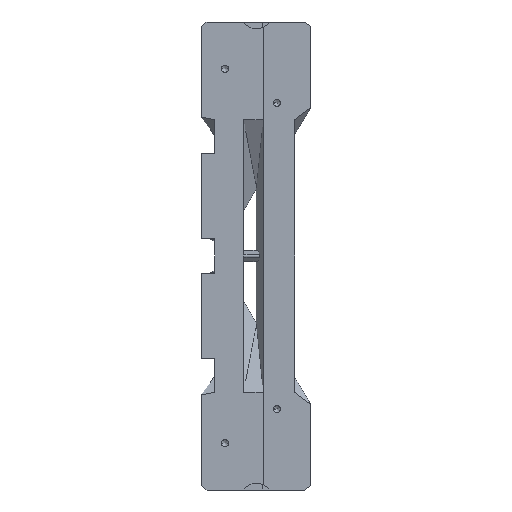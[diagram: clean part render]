
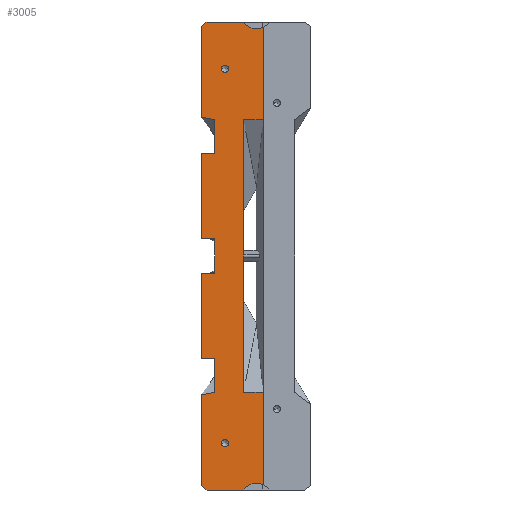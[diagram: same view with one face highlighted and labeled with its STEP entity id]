
A CAD part, left-side view. The second image highlights one B-rep face of the part: STEP entity #3005.
In plain terms, the highlighted planar face has unit normal (-1, 0, 0).
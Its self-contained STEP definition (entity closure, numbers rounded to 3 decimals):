
#1629=DIRECTION('',(0.,-1.,0.));
#1630=VECTOR('',#1629,42.524);
#1631=CARTESIAN_POINT('',(0.,58.016,-275.));
#1632=LINE('',#1631,#1630);
#1657=CARTESIAN_POINT('',(0.,37.,-220.));
#1658=DIRECTION('',(-1.,0.,0.));
#1659=DIRECTION('',(0.,1.,0.));
#1660=AXIS2_PLACEMENT_3D('',#1657,#1658,#1659);
#1662=CARTESIAN_POINT('',(0.,37.,-220.));
#1663=DIRECTION('',(-1.,0.,0.));
#1664=DIRECTION('',(0.,-1.,0.));
#1665=AXIS2_PLACEMENT_3D('',#1662,#1663,#1664);
#1667=CARTESIAN_POINT('',(0.,37.,220.));
#1668=DIRECTION('',(-1.,0.,0.));
#1669=DIRECTION('',(0.,1.,0.));
#1670=AXIS2_PLACEMENT_3D('',#1667,#1668,#1669);
#1672=CARTESIAN_POINT('',(0.,37.,220.));
#1673=DIRECTION('',(-1.,0.,0.));
#1674=DIRECTION('',(0.,-1.,0.));
#1675=AXIS2_PLACEMENT_3D('',#1672,#1673,#1674);
#1677=DIRECTION('',(0.,0.,1.));
#1678=VECTOR('',#1677,100.);
#1679=CARTESIAN_POINT('',(0.,65.,20.));
#1680=LINE('',#1679,#1678);
#1681=DIRECTION('',(0.,1.,0.));
#1682=VECTOR('',#1681,16.);
#1683=CARTESIAN_POINT('',(0.,49.,120.));
#1684=LINE('',#1683,#1682);
#1685=DIRECTION('',(0.,0.,1.));
#1686=VECTOR('',#1685,40.);
#1687=CARTESIAN_POINT('',(0.,49.,120.));
#1688=LINE('',#1687,#1686);
#1689=DIRECTION('',(0.,-0.978,-0.208));
#1690=VECTOR('',#1689,16.357);
#1691=CARTESIAN_POINT('',(0.,65.,163.401));
#1692=LINE('',#1691,#1690);
#1693=DIRECTION('',(0.,0.,1.));
#1694=VECTOR('',#1693,106.599);
#1695=CARTESIAN_POINT('',(0.,65.,163.401));
#1696=LINE('',#1695,#1694);
#1697=DIRECTION('',(0.,0.813,-0.582));
#1698=VECTOR('',#1697,8.589);
#1699=CARTESIAN_POINT('',(0.,58.016,275.));
#1700=LINE('',#1699,#1698);
#1701=CARTESIAN_POINT('',(0.,0.,286.));
#1702=DIRECTION('',(-1.,0.,0.));
#1703=DIRECTION('',(0.,0.815,-0.579));
#1704=AXIS2_PLACEMENT_3D('',#1701,#1702,#1703);
#1706=DIRECTION('',(0.,-1.,0.));
#1707=VECTOR('',#1706,23.);
#1708=CARTESIAN_POINT('',(0.,15.,160.));
#1709=LINE('',#1708,#1707);
#1710=DIRECTION('',(0.,0.,1.));
#1711=VECTOR('',#1710,320.);
#1712=CARTESIAN_POINT('',(0.,15.,-160.));
#1713=LINE('',#1712,#1711);
#1714=DIRECTION('',(0.,1.,0.));
#1715=VECTOR('',#1714,23.);
#1716=CARTESIAN_POINT('',(0.,-8.,-160.));
#1717=LINE('',#1716,#1715);
#1718=CARTESIAN_POINT('',(0.,0.,-286.));
#1719=DIRECTION('',(-1.,0.,0.));
#1720=DIRECTION('',(0.,-0.421,0.907));
#1721=AXIS2_PLACEMENT_3D('',#1718,#1719,#1720);
#1723=DIRECTION('',(0.,-0.813,-0.582));
#1724=VECTOR('',#1723,8.589);
#1725=CARTESIAN_POINT('',(0.,65.,-270.));
#1726=LINE('',#1725,#1724);
#1727=DIRECTION('',(0.,0.,1.));
#1728=VECTOR('',#1727,106.599);
#1729=CARTESIAN_POINT('',(0.,65.,-270.));
#1730=LINE('',#1729,#1728);
#1731=DIRECTION('',(0.,0.978,-0.208));
#1732=VECTOR('',#1731,16.357);
#1733=CARTESIAN_POINT('',(0.,49.,-160.));
#1734=LINE('',#1733,#1732);
#1735=DIRECTION('',(0.,0.,1.));
#1736=VECTOR('',#1735,40.);
#1737=CARTESIAN_POINT('',(0.,49.,-160.));
#1738=LINE('',#1737,#1736);
#1739=DIRECTION('',(0.,-1.,0.));
#1740=VECTOR('',#1739,16.);
#1741=CARTESIAN_POINT('',(0.,65.,-120.));
#1742=LINE('',#1741,#1740);
#1743=DIRECTION('',(0.,0.,1.));
#1744=VECTOR('',#1743,100.);
#1745=CARTESIAN_POINT('',(0.,65.,-120.));
#1746=LINE('',#1745,#1744);
#1813=DIRECTION('',(0.,0.,-1.));
#1814=VECTOR('',#1813,40.);
#1815=CARTESIAN_POINT('',(0.,49.,20.));
#1816=LINE('',#1815,#1814);
#1853=DIRECTION('',(0.,-1.,0.));
#1854=VECTOR('',#1853,16.);
#1855=CARTESIAN_POINT('',(0.,65.,20.));
#1856=LINE('',#1855,#1854);
#2346=DIRECTION('',(0.,0.,1.));
#2347=VECTOR('',#2346,108.766);
#2348=CARTESIAN_POINT('',(0.,-8.,-268.766));
#2349=LINE('',#2348,#2347);
#2354=DIRECTION('',(0.,0.,1.));
#2355=VECTOR('',#2354,108.766);
#2356=CARTESIAN_POINT('',(0.,-8.,160.));
#2357=LINE('',#2356,#2355);
#2419=DIRECTION('',(0.,-1.,0.));
#2420=VECTOR('',#2419,42.524);
#2421=CARTESIAN_POINT('',(0.,58.016,275.));
#2422=LINE('',#2421,#2420);
#2587=DIRECTION('',(0.,1.,0.));
#2588=VECTOR('',#2587,16.);
#2589=CARTESIAN_POINT('',(0.,49.,-20.));
#2590=LINE('',#2589,#2588);
#2617=CARTESIAN_POINT('',(0.,58.016,275.));
#2618=CARTESIAN_POINT('',(0.,65.,270.));
#2619=VERTEX_POINT('',#2617);
#2620=VERTEX_POINT('',#2618);
#2629=CARTESIAN_POINT('',(0.,65.,-270.));
#2630=VERTEX_POINT('',#2629);
#2631=CARTESIAN_POINT('',(0.,58.016,-275.));
#2632=VERTEX_POINT('',#2631);
#2641=CARTESIAN_POINT('',(0.,15.492,-275.));
#2642=VERTEX_POINT('',#2641);
#2647=CARTESIAN_POINT('',(0.,15.492,275.));
#2648=VERTEX_POINT('',#2647);
#2649=CARTESIAN_POINT('',(0.,-8.,-268.766));
#2650=VERTEX_POINT('',#2649);
#2651=CARTESIAN_POINT('',(0.,-8.,268.766));
#2652=VERTEX_POINT('',#2651);
#2663=CARTESIAN_POINT('',(0.,41.25,-220.));
#2664=CARTESIAN_POINT('',(0.,32.75,-220.));
#2665=VERTEX_POINT('',#2663);
#2666=VERTEX_POINT('',#2664);
#2673=CARTESIAN_POINT('',(0.,41.25,220.));
#2674=CARTESIAN_POINT('',(0.,32.75,220.));
#2675=VERTEX_POINT('',#2673);
#2676=VERTEX_POINT('',#2674);
#2697=CARTESIAN_POINT('',(0.,65.,163.401));
#2698=VERTEX_POINT('',#2697);
#2699=CARTESIAN_POINT('',(0.,65.,120.));
#2700=VERTEX_POINT('',#2699);
#2701=CARTESIAN_POINT('',(0.,49.,160.));
#2702=VERTEX_POINT('',#2701);
#2703=CARTESIAN_POINT('',(0.,49.,120.));
#2704=VERTEX_POINT('',#2703);
#2715=CARTESIAN_POINT('',(0.,65.,-120.));
#2716=VERTEX_POINT('',#2715);
#2717=CARTESIAN_POINT('',(0.,65.,-163.401));
#2718=VERTEX_POINT('',#2717);
#2719=CARTESIAN_POINT('',(0.,49.,-120.));
#2720=VERTEX_POINT('',#2719);
#2721=CARTESIAN_POINT('',(0.,49.,-160.));
#2722=VERTEX_POINT('',#2721);
#2731=CARTESIAN_POINT('',(0.,15.,-160.));
#2732=CARTESIAN_POINT('',(0.,15.,160.));
#2733=VERTEX_POINT('',#2731);
#2734=VERTEX_POINT('',#2732);
#2735=CARTESIAN_POINT('',(0.,-8.,-160.));
#2736=VERTEX_POINT('',#2735);
#2737=CARTESIAN_POINT('',(0.,-8.,160.));
#2738=VERTEX_POINT('',#2737);
#2815=CARTESIAN_POINT('',(0.,65.,-20.));
#2816=VERTEX_POINT('',#2815);
#2817=CARTESIAN_POINT('',(0.,65.,20.));
#2818=VERTEX_POINT('',#2817);
#2819=CARTESIAN_POINT('',(0.,49.,20.));
#2820=CARTESIAN_POINT('',(0.,49.,-20.));
#2821=VERTEX_POINT('',#2819);
#2822=VERTEX_POINT('',#2820);
#2940=CARTESIAN_POINT('',(0.,65.,-275.));
#2941=DIRECTION('',(-1.,0.,0.));
#2942=DIRECTION('',(0.,-1.,0.));
#2943=AXIS2_PLACEMENT_3D('',#2940,#2941,#2942);
#2944=PLANE('',#2943);
#2946=ORIENTED_EDGE('',*,*,#2945,.F.);
#2948=ORIENTED_EDGE('',*,*,#2947,.F.);
#2950=ORIENTED_EDGE('',*,*,#2949,.T.);
#2952=ORIENTED_EDGE('',*,*,#2951,.F.);
#2954=ORIENTED_EDGE('',*,*,#2953,.T.);
#2956=ORIENTED_EDGE('',*,*,#2955,.F.);
#2958=ORIENTED_EDGE('',*,*,#2957,.T.);
#2960=ORIENTED_EDGE('',*,*,#2959,.F.);
#2962=ORIENTED_EDGE('',*,*,#2961,.T.);
#2964=ORIENTED_EDGE('',*,*,#2963,.T.);
#2966=ORIENTED_EDGE('',*,*,#2965,.F.);
#2968=ORIENTED_EDGE('',*,*,#2967,.F.);
#2970=ORIENTED_EDGE('',*,*,#2969,.F.);
#2972=ORIENTED_EDGE('',*,*,#2971,.F.);
#2974=ORIENTED_EDGE('',*,*,#2973,.F.);
#2975=ORIENTED_EDGE('',*,*,#2932,.T.);
#2976=ORIENTED_EDGE('',*,*,#2886,.F.);
#2978=ORIENTED_EDGE('',*,*,#2977,.F.);
#2980=ORIENTED_EDGE('',*,*,#2979,.T.);
#2982=ORIENTED_EDGE('',*,*,#2981,.F.);
#2984=ORIENTED_EDGE('',*,*,#2983,.T.);
#2986=ORIENTED_EDGE('',*,*,#2985,.F.);
#2988=ORIENTED_EDGE('',*,*,#2987,.T.);
#2990=ORIENTED_EDGE('',*,*,#2989,.F.);
#2991=EDGE_LOOP('',(#2946,#2948,#2950,#2952,#2954,#2956,#2958,#2960,#2962,#2964,
#2966,#2968,#2970,#2972,#2974,#2975,#2976,#2978,#2980,#2982,#2984,#2986,#2988,
#2990));
#2992=FACE_OUTER_BOUND('',#2991,.F.);
#2994=ORIENTED_EDGE('',*,*,#2993,.T.);
#2996=ORIENTED_EDGE('',*,*,#2995,.T.);
#2997=EDGE_LOOP('',(#2994,#2996));
#2998=FACE_BOUND('',#2997,.F.);
#3000=ORIENTED_EDGE('',*,*,#2999,.T.);
#3002=ORIENTED_EDGE('',*,*,#3001,.T.);
#3003=EDGE_LOOP('',(#3000,#3002));
#3004=FACE_BOUND('',#3003,.F.);
#3005=ADVANCED_FACE('',(#2992,#2998,#3004),#2944,.T.);
#1661=CIRCLE('',#1660,4.25);
#1666=CIRCLE('',#1665,4.25);
#1671=CIRCLE('',#1670,4.25);
#1676=CIRCLE('',#1675,4.25);
#1705=CIRCLE('',#1704,19.);
#1722=CIRCLE('',#1721,19.);
#2886=EDGE_CURVE('',#2632,#2642,#1632,.T.);
#2932=EDGE_CURVE('',#2650,#2642,#1722,.T.);
#2945=EDGE_CURVE('',#2821,#2822,#1816,.T.);
#2947=EDGE_CURVE('',#2818,#2821,#1856,.T.);
#2949=EDGE_CURVE('',#2818,#2700,#1680,.T.);
#2951=EDGE_CURVE('',#2704,#2700,#1684,.T.);
#2953=EDGE_CURVE('',#2704,#2702,#1688,.T.);
#2955=EDGE_CURVE('',#2698,#2702,#1692,.T.);
#2957=EDGE_CURVE('',#2698,#2620,#1696,.T.);
#2959=EDGE_CURVE('',#2619,#2620,#1700,.T.);
#2961=EDGE_CURVE('',#2619,#2648,#2422,.T.);
#2963=EDGE_CURVE('',#2648,#2652,#1705,.T.);
#2965=EDGE_CURVE('',#2738,#2652,#2357,.T.);
#2967=EDGE_CURVE('',#2734,#2738,#1709,.T.);
#2969=EDGE_CURVE('',#2733,#2734,#1713,.T.);
#2971=EDGE_CURVE('',#2736,#2733,#1717,.T.);
#2973=EDGE_CURVE('',#2650,#2736,#2349,.T.);
#2977=EDGE_CURVE('',#2630,#2632,#1726,.T.);
#2979=EDGE_CURVE('',#2630,#2718,#1730,.T.);
#2981=EDGE_CURVE('',#2722,#2718,#1734,.T.);
#2983=EDGE_CURVE('',#2722,#2720,#1738,.T.);
#2985=EDGE_CURVE('',#2716,#2720,#1742,.T.);
#2987=EDGE_CURVE('',#2716,#2816,#1746,.T.);
#2989=EDGE_CURVE('',#2822,#2816,#2590,.T.);
#2993=EDGE_CURVE('',#2675,#2676,#1671,.T.);
#2995=EDGE_CURVE('',#2676,#2675,#1676,.T.);
#2999=EDGE_CURVE('',#2665,#2666,#1661,.T.);
#3001=EDGE_CURVE('',#2666,#2665,#1666,.T.);
